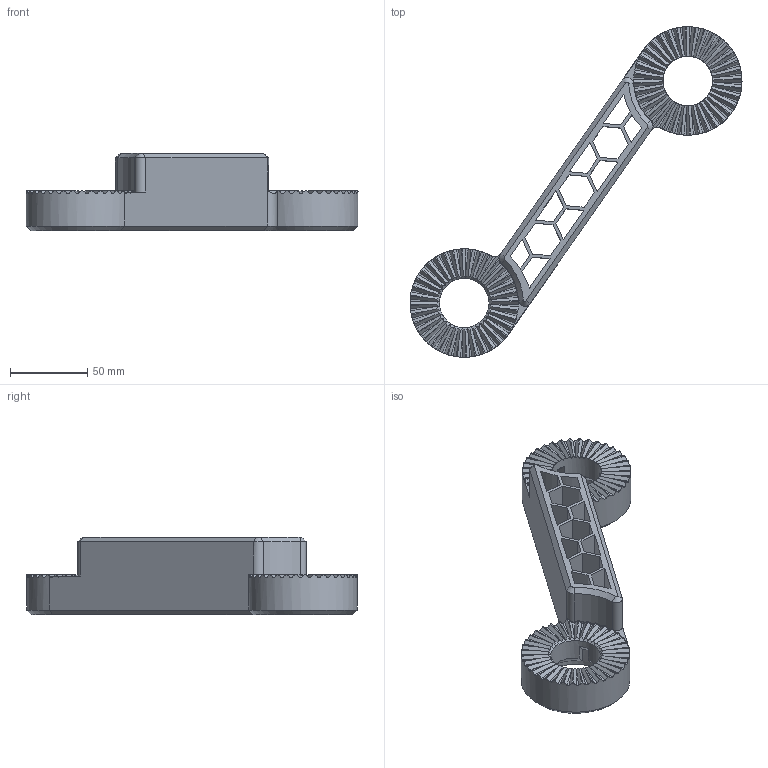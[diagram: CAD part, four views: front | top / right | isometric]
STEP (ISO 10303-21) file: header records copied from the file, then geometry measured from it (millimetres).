
FILE_DESCRIPTION(/* description */ (''),/* implementation_level */ '2;1');
FILE_NAME(/* name */ '/Users/rostapetr/Downloads/arm-honeycomb-wall-compatible.step',/* time_stamp */ '2022-04-16T22:19:19+02:00',/* author */ (''),/* organization */ (''),/* preprocessor_version */ 'ST-DEVELOPER v18.1',/* originating_system */ 'Autodesk Translation Framework v10.14.0.1471',/* authorisation */ '');
FILE_SCHEMA (('AUTOMOTIVE_DESIGN { 1 0 10303 214 3 1 1 }'));
Length unit declared in the file: millimetre
Products named in the file (1): arm-honeycomb-wall-compatible
Bounding box: 214.32 x 213.35 x 50 mm (x, y, z)
Volume: 264671.6 mm3; surface area: 80545.7 mm2
Topology: 1 solids, 1 shells, 434 faces, 1253 edges, 819 vertices
Faces by surface type: plane 360, cylinder 51, cone 23
Full cylindrical faces by diameter (mm): 32 x2, 45.5 x2
Entity records: 14382 total; most frequent: CARTESIAN_POINT 2701, DIRECTION 2528, ORIENTED_EDGE 2506, EDGE_CURVE 1253, AXIS2_PLACEMENT_3D 937, VERTEX_POINT 819, LINE 654, VECTOR 654
